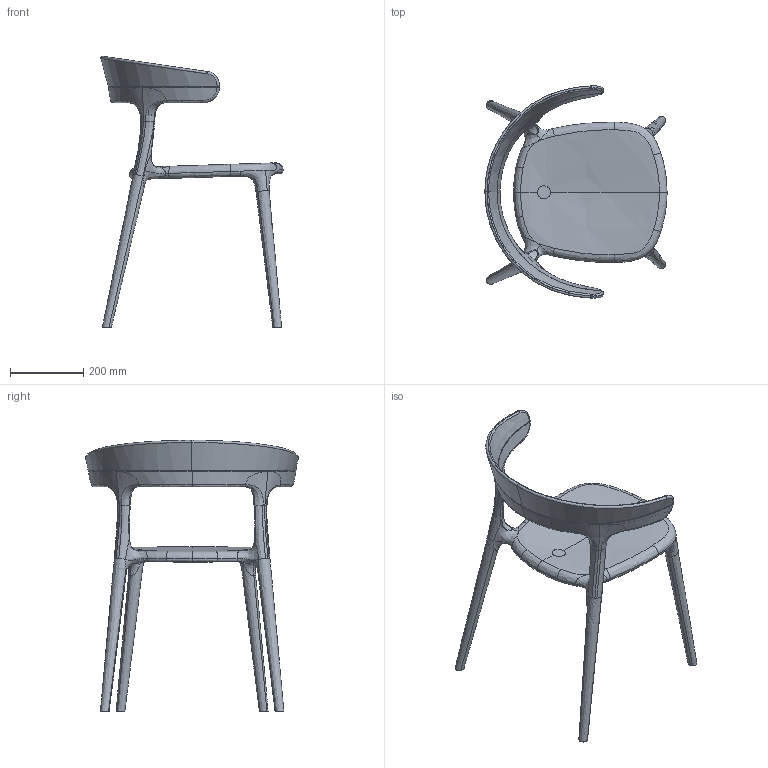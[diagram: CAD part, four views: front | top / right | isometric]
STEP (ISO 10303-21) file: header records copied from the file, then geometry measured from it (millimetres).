
FILE_DESCRIPTION (( 'STEP AP203' ), '1' );
FILE_NAME ('luna 3d.STEP', '2015-05-04T08:23:13', ( '' ), ( '' ), 'SwSTEP 2.0', 'SolidWorks 2015', '' );
FILE_SCHEMA (( 'CONFIG_CONTROL_DESIGN' ));
Products named in the file (5): luna gövde; luna s齬t; luna 3d
Assembly tree (2 placements, depth 2):
  luna 3d
    luna gövde
    luna s齬t
  luna gövde
  luna s齬t
Bounding box: 498.11 x 580.38 x 742.14 mm (x, y, z)
Volume: 3585641.3 mm3; surface area: 848916.4 mm2
Topology: 1 solids, 2 shells, 415 faces, 1009 edges, 597 vertices
Faces by surface type: bspline 377, plane 38
Entity records: 258342 total; most frequent: CARTESIAN_POINT 251616, ORIENTED_EDGE 1992, EDGE_CURVE 997, B_SPLINE_CURVE_WITH_KNOTS 864, VERTEX_POINT 597, EDGE_LOOP 429, FACE_OUTER_BOUND 415, ADVANCED_FACE 415
